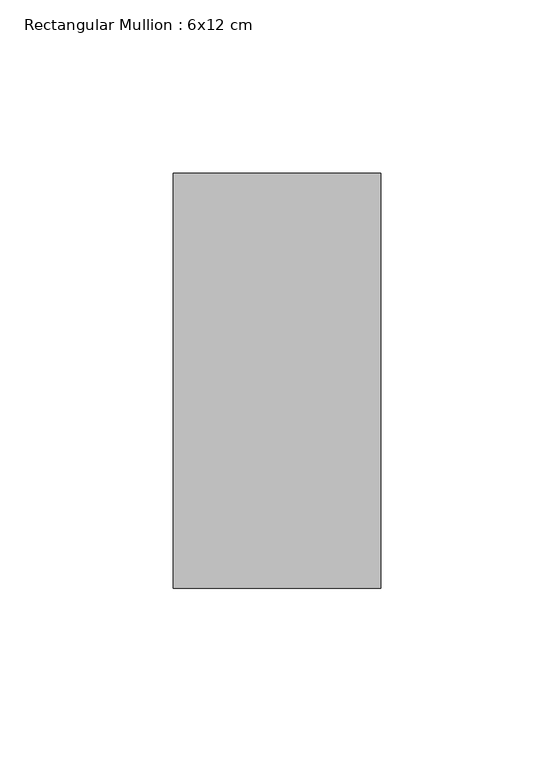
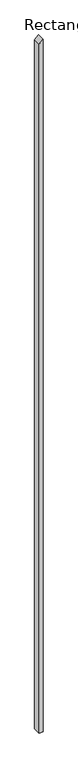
"""IFC4 building model written with IfcOpenShell, lengths in millimetres: member geometry, Rectangular Mullion : 6x12 cm."""

from ifc_helpers import new_model, si_unit, frame, origin, place, context, project, spatial, polyline, outline, extrude, source, transform, mapped, element, save


def rectangular_mullion_6x12_cm_a37a5d2d(model_context):
    return source(origin(), model_context, "Body", "SweptSolid", [
        extrude(outline(polyline([(-54.2281179, 30.0), (-111.0657265, -30.0), (-11285.9009901, -30.0), (-11285.9009901, 30.0), (-54.2281179, 30.0)])), frame((0.0, 85.0, 0.0), z_axis=(0.0, 1.0, 0.0), x_axis=(0.0, 0.0, 1.0)), (0.0, 0.0, 1.0), 120.0),
    ])


if __name__ == "__main__":
    model = new_model("IFC4")
    model_context = context("Model", 3, world=origin())
    ifc_project = project(units=[si_unit("LENGTHUNIT", "METRE", prefix="MILLI")], contexts=[model_context])
    site = spatial("IfcSite", under=ifc_project)
    building = spatial("IfcBuilding", under=site)
    placement = place(None, origin())
    rectangular_mullion_6x12_cm_shape = rectangular_mullion_6x12_cm_a37a5d2d(model_context)
    element("IfcMember", 1, ObjectType="Rectangular Mullion : 6x12 cm", at=placement, inside=building, context=model_context, shape_type="MappedRepresentation", body=[
        mapped(rectangular_mullion_6x12_cm_shape, transform((0.0, 0.0, 0.0), x_axis=(1.0, 0.0, 0.0), y_axis=(0.0, 1.0, 0.0), z_axis=(0.0, 0.0, 1.0))),
    ])
    save(model, "model.ifc")
